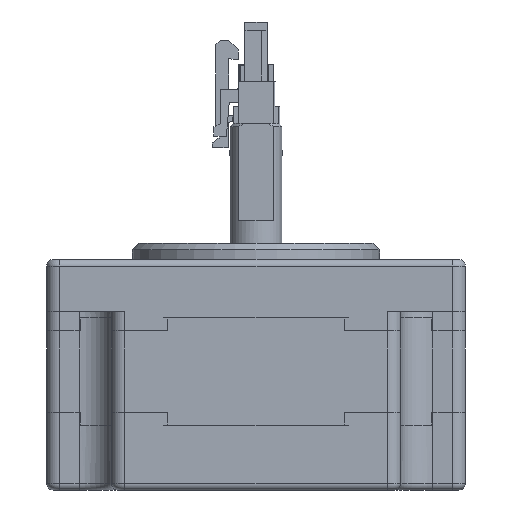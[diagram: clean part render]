
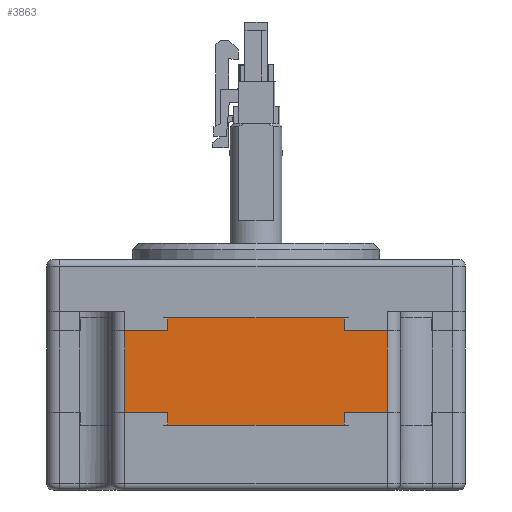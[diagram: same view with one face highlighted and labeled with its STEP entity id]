
A CAD part, front view. The second image highlights one B-rep face of the part: STEP entity #3863.
In plain terms, the highlighted planar face has unit normal (0, -1, 0).
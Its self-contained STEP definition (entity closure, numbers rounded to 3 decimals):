
#604 = ORIENTED_EDGE ( 'NONE', *, *, #3293, .F. ) ;
#605 = ORIENTED_EDGE ( 'NONE', *, *, #3294, .T. ) ;
#606 = ORIENTED_EDGE ( 'NONE', *, *, #3292, .F. ) ;
#607 = ORIENTED_EDGE ( 'NONE', *, *, #3291, .F. ) ;
#608 = ORIENTED_EDGE ( 'NONE', *, *, #3368, .T. ) ;
#609 = ORIENTED_EDGE ( 'NONE', *, *, #3290, .F. ) ;
#610 = ORIENTED_EDGE ( 'NONE', *, *, #3289, .F. ) ;
#611 = ORIENTED_EDGE ( 'NONE', *, *, #3288, .F. ) ;
#612 = ORIENTED_EDGE ( 'NONE', *, *, #3287, .F. ) ;
#613 = ORIENTED_EDGE ( 'NONE', *, *, #3286, .F. ) ;
#614 = ORIENTED_EDGE ( 'NONE', *, *, #3285, .F. ) ;
#615 = ORIENTED_EDGE ( 'NONE', *, *, #3284, .F. ) ;
#3284 = EDGE_CURVE ( 'NONE', #10756, #10800, #15245, .T. ) ;
#3285 = EDGE_CURVE ( 'NONE', #10800, #10804, #15244, .T. ) ;
#3286 = EDGE_CURVE ( 'NONE', #10804, #10806, #15248, .T. ) ;
#3287 = EDGE_CURVE ( 'NONE', #10806, #10742, #15250, .T. ) ;
#3288 = EDGE_CURVE ( 'NONE', #10742, #10801, #15252, .T. ) ;
#3289 = EDGE_CURVE ( 'NONE', #10801, #10802, #15254, .T. ) ;
#3290 = EDGE_CURVE ( 'NONE', #10802, #10701, #15256, .T. ) ;
#3291 = EDGE_CURVE ( 'NONE', #10696, #10803, #15258, .T. ) ;
#3292 = EDGE_CURVE ( 'NONE', #10803, #10805, #15260, .T. ) ;
#3293 = EDGE_CURVE ( 'NONE', #10753, #10756, #15262, .T. ) ;
#3294 = EDGE_CURVE ( 'NONE', #10753, #10805, #15264, .T. ) ;
#3368 = EDGE_CURVE ( 'NONE', #10696, #10701, #15389, .T. ) ;
#3863 = ADVANCED_FACE ( 'NONE', ( #16185 ), #18682, .F. ) ;
#6648 = CARTESIAN_POINT ( 'NONE',  ( -13.599, -32.25, -5. ) ) ;
#6653 = CARTESIAN_POINT ( 'NONE',  ( 13.599, -32.25, -5. ) ) ;
#6694 = CARTESIAN_POINT ( 'NONE',  ( 20.25, -32.25, 9.5 ) ) ;
#6705 = CARTESIAN_POINT ( 'NONE',  ( -20.25, -32.25, 9.5 ) ) ;
#6708 = CARTESIAN_POINT ( 'NONE',  ( -13.599, -32.25, 9.5 ) ) ;
#6752 = CARTESIAN_POINT ( 'NONE',  ( -13.599, -32.25, 11.5 ) ) ;
#6753 = CARTESIAN_POINT ( 'NONE',  ( 20.25, -32.25, -3. ) ) ;
#6754 = CARTESIAN_POINT ( 'NONE',  ( 13.599, -32.25, -3. ) ) ;
#6755 = CARTESIAN_POINT ( 'NONE',  ( -13.599, -32.25, -3. ) ) ;
#6756 = CARTESIAN_POINT ( 'NONE',  ( 13.599, -32.25, 11.5 ) ) ;
#6757 = CARTESIAN_POINT ( 'NONE',  ( -20.25, -32.25, -3. ) ) ;
#6758 = CARTESIAN_POINT ( 'NONE',  ( 13.599, -32.25, 9.5 ) ) ;
#10696 = VERTEX_POINT ( 'NONE', #6648 ) ;
#10701 = VERTEX_POINT ( 'NONE', #6653 ) ;
#10742 = VERTEX_POINT ( 'NONE', #6694 ) ;
#10753 = VERTEX_POINT ( 'NONE', #6705 ) ;
#10756 = VERTEX_POINT ( 'NONE', #6708 ) ;
#10800 = VERTEX_POINT ( 'NONE', #6752 ) ;
#10801 = VERTEX_POINT ( 'NONE', #6753 ) ;
#10802 = VERTEX_POINT ( 'NONE', #6754 ) ;
#10803 = VERTEX_POINT ( 'NONE', #6755 ) ;
#10804 = VERTEX_POINT ( 'NONE', #6756 ) ;
#10805 = VERTEX_POINT ( 'NONE', #6757 ) ;
#10806 = VERTEX_POINT ( 'NONE', #6758 ) ;
#10919 = EDGE_LOOP ( 'NONE', ( #604, #605, #606, #607, #608, #609, #610, #611, #612, #613, #614, #615 ) ) ;
#15244 = LINE ( 'NONE', #16936, #15249 ) ;
#15245 = LINE ( 'NONE', #16932, #15247 ) ;
#15247 = VECTOR ( 'NONE', #16931, 1000. ) ;
#15248 = LINE ( 'NONE', #16941, #15251 ) ;
#15249 = VECTOR ( 'NONE', #16940, 1000. ) ;
#15250 = LINE ( 'NONE', #16943, #15253 ) ;
#15251 = VECTOR ( 'NONE', #16942, 1000. ) ;
#15252 = LINE ( 'NONE', #16945, #15255 ) ;
#15253 = VECTOR ( 'NONE', #16944, 1000. ) ;
#15254 = LINE ( 'NONE', #16947, #15257 ) ;
#15255 = VECTOR ( 'NONE', #16946, 1000. ) ;
#15256 = LINE ( 'NONE', #16949, #15259 ) ;
#15257 = VECTOR ( 'NONE', #16948, 1000. ) ;
#15258 = LINE ( 'NONE', #16951, #15261 ) ;
#15259 = VECTOR ( 'NONE', #16950, 1000. ) ;
#15260 = LINE ( 'NONE', #16953, #15263 ) ;
#15261 = VECTOR ( 'NONE', #16952, 1000. ) ;
#15262 = LINE ( 'NONE', #16955, #15265 ) ;
#15263 = VECTOR ( 'NONE', #16954, 1000. ) ;
#15264 = LINE ( 'NONE', #16957, #15267 ) ;
#15265 = VECTOR ( 'NONE', #16956, 1000. ) ;
#15267 = VECTOR ( 'NONE', #16958, 1000. ) ;
#15389 = LINE ( 'NONE', #17123, #15391 ) ;
#15391 = VECTOR ( 'NONE', #17124, 1000. ) ;
#16185 = FACE_OUTER_BOUND ( 'NONE', #10919, .T. ) ;
#16931 = DIRECTION ( 'NONE',  ( 0., 0., 1. ) ) ;
#16932 = CARTESIAN_POINT ( 'NONE',  ( -13.599, -32.25, 9.5 ) ) ;
#16936 = CARTESIAN_POINT ( 'NONE',  ( -20.25, -32.25, 11.5 ) ) ;
#16940 = DIRECTION ( 'NONE',  ( 1., 0., 0. ) ) ;
#16941 = CARTESIAN_POINT ( 'NONE',  ( 13.599, -32.25, 9.5 ) ) ;
#16942 = DIRECTION ( 'NONE',  ( 0., 0., -1. ) ) ;
#16943 = CARTESIAN_POINT ( 'NONE',  ( -20.25, -32.25, 9.5 ) ) ;
#16944 = DIRECTION ( 'NONE',  ( 1., 0., 0. ) ) ;
#16945 = CARTESIAN_POINT ( 'NONE',  ( 20.25, -32.25, 11.5 ) ) ;
#16946 = DIRECTION ( 'NONE',  ( 0., 0., -1. ) ) ;
#16947 = CARTESIAN_POINT ( 'NONE',  ( -20.25, -32.25, -3. ) ) ;
#16948 = DIRECTION ( 'NONE',  ( -1., 0., 0. ) ) ;
#16949 = CARTESIAN_POINT ( 'NONE',  ( 13.599, -32.25, -3. ) ) ;
#16950 = DIRECTION ( 'NONE',  ( 0., 0., -1. ) ) ;
#16951 = CARTESIAN_POINT ( 'NONE',  ( -13.599, -32.25, -3. ) ) ;
#16952 = DIRECTION ( 'NONE',  ( 0., 0., 1. ) ) ;
#16953 = CARTESIAN_POINT ( 'NONE',  ( -20.25, -32.25, -3. ) ) ;
#16954 = DIRECTION ( 'NONE',  ( -1., 0., 0. ) ) ;
#16955 = CARTESIAN_POINT ( 'NONE',  ( -20.25, -32.25, 9.5 ) ) ;
#16956 = DIRECTION ( 'NONE',  ( 1., 0., 0. ) ) ;
#16957 = CARTESIAN_POINT ( 'NONE',  ( -20.25, -32.25, 11.5 ) ) ;
#16958 = DIRECTION ( 'NONE',  ( 0., 0., -1. ) ) ;
#17123 = CARTESIAN_POINT ( 'NONE',  ( -20.25, -32.25, -5. ) ) ;
#17124 = DIRECTION ( 'NONE',  ( 1., 0., 0. ) ) ;
#18680 = CARTESIAN_POINT ( 'NONE',  ( -20.25, -32.25, 11.5 ) ) ;
#18682 = PLANE ( 'NONE',  #18838 ) ;
#18685 = DIRECTION ( 'NONE',  ( 0., 1., 0. ) ) ;
#18686 = DIRECTION ( 'NONE',  ( 0., 0., 1. ) ) ;
#18838 = AXIS2_PLACEMENT_3D ( 'NONE', #18680, #18685, #18686 ) ;
